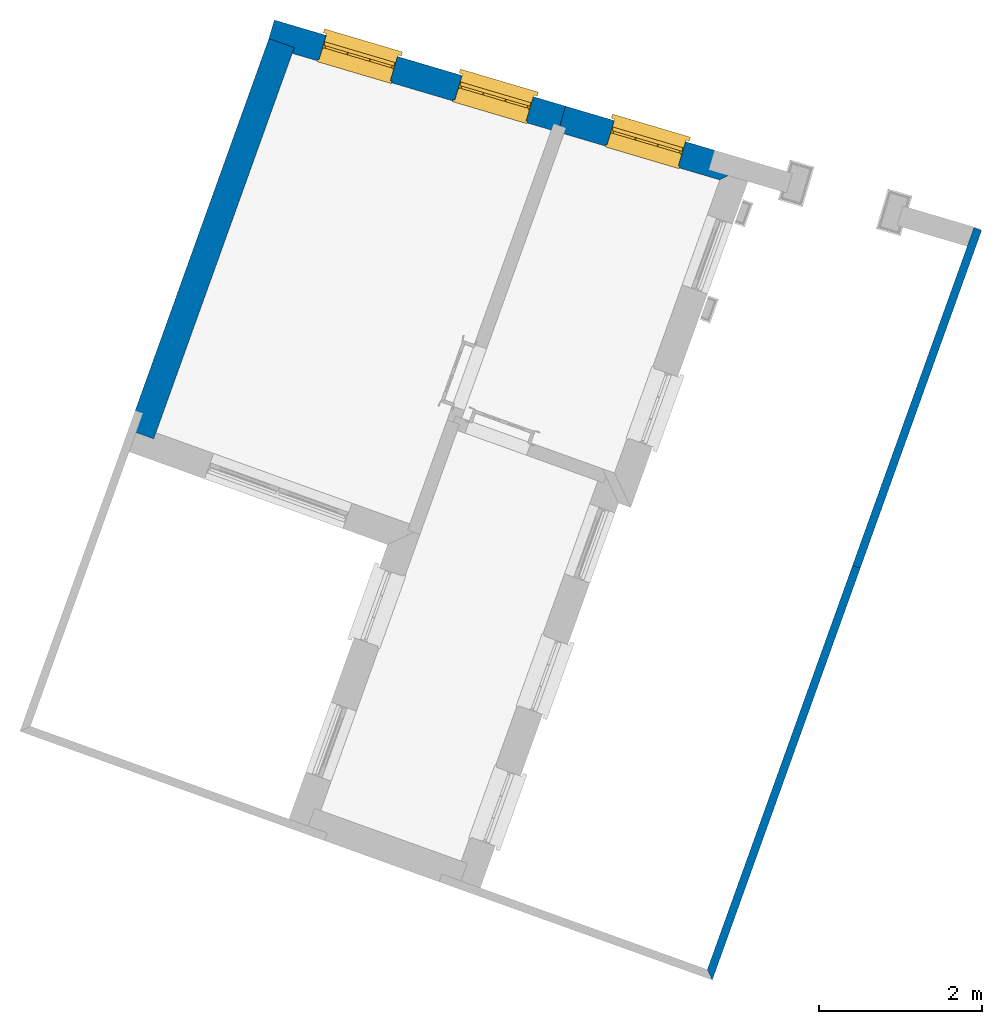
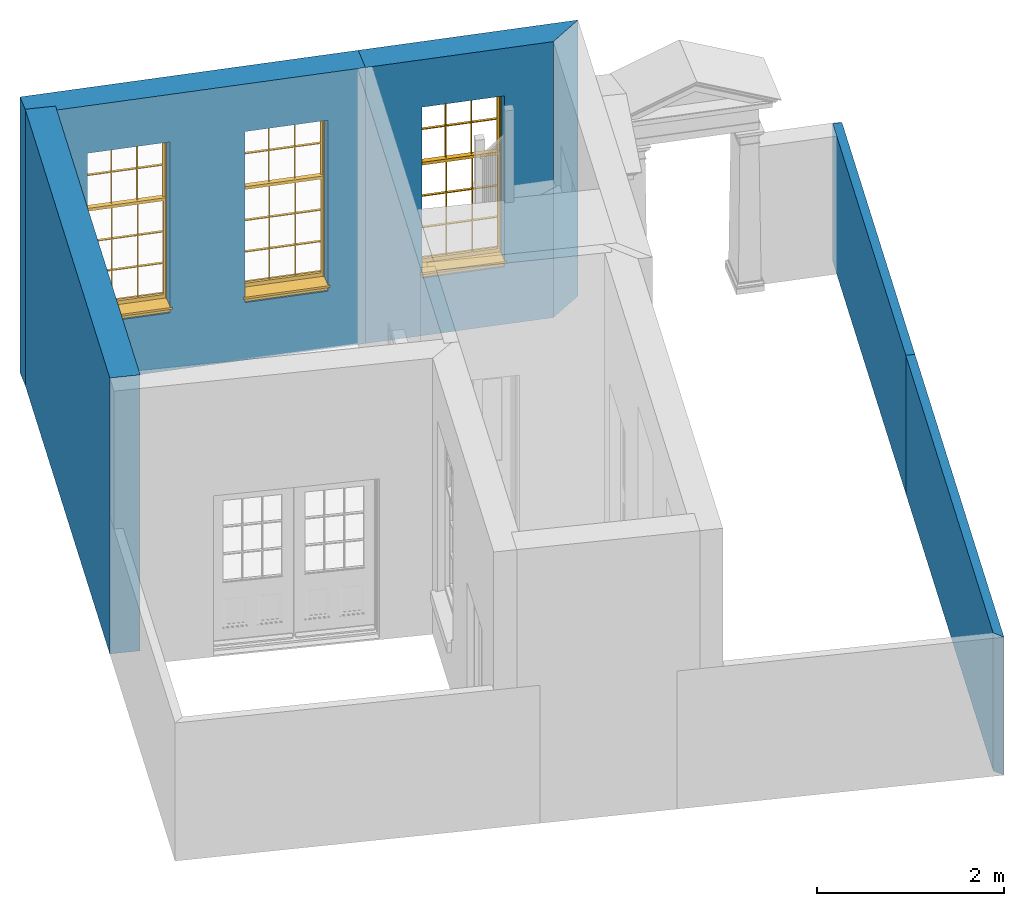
# One storey, part 6 of 7: 5 walls, 3 windows, 3 openings.
"""IFC4 building model written with IfcOpenShell, lengths in metres."""

from ifc_helpers import new_model, si_unit, frame, origin, origin_with_axes, place, context, subcontext, project, spatial, polyline, outline, extrude, faceted_brep, source, transform, mapped, material, layer, layer_set, layer_usage, type_object, type_shapes, element, fill, save


model = new_model("IFC4")

# Units and contexts
model_context = context("Model", 3, world=origin_with_axes())
body_context = subcontext(model_context, "Body", "Model", "MODEL_VIEW")
ifc_project = project(units=[si_unit("PLANEANGLEUNIT", "RADIAN"), si_unit("MASSUNIT", "GRAM", prefix="KILO"), si_unit("FORCEUNIT", "NEWTON", prefix="KILO"), si_unit("LENGTHUNIT", "METRE"), si_unit("AREAUNIT", "SQUARE_METRE"), si_unit("VOLUMEUNIT", "CUBIC_METRE")], contexts=[model_context, model_context])

# Sites, building, storey
site_1_placement = place(None, origin_with_axes())
site_1 = spatial("IfcSite", under=ifc_project, at=site_1_placement, Name="Tamar")
site_2_placement = place(site_1_placement, origin_with_axes())
site_2 = spatial("IfcSite", under=site_1, at=site_2_placement, Name="Site plot-23", CompositionType="ELEMENT")
building_placement = place(None, origin_with_axes())
building = spatial("IfcBuilding", under=site_2, at=building_placement, Name="Building plot-23", CompositionType="ELEMENT")
storey_placement = place(None, frame((0.0, 0.0, 26.0), z_axis=(0.0, 0.0, 1.0), x_axis=(1.0, 0.0, 0.0)))
storey = spatial("IfcBuildingStorey", under=building, at=storey_placement, Name="plot-23 0", CompositionType="ELEMENT", Elevation=26.0)

# Wall, opening, window
ifc_material_1 = material(Name="Masonry")
ifc_layer_1 = layer(ifc_material_1, 0.33, ventilated=False)
ifc_layer_set_1 = layer_set([ifc_layer_1], Name="exterior_0.08_0.25")
ifc_layer_usage_1 = layer_usage(ifc_layer_set_1, "AXIS2", "POSITIVE", -0.25)
wall_type_1 = type_object("IfcWallType", Name="exterior_0.08_0.25", PredefinedType="SOLIDWALL", material=ifc_layer_set_1)
wall_1_placement = place(storey_placement, frame((267.671352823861, 281.516276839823, 0.0), z_axis=(0.0, 0.0, 1.0), x_axis=(-0.95889955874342, 0.283745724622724, 0.0)))
wall_1 = element("IfcWall", 1, at=wall_1_placement, inside=storey, type_object=wall_type_1, material=ifc_layer_usage_1, Name="exterior", context=body_context, shape_type="SweptSolid", body=[
    extrude(outline(polyline([(0.0847177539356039, 0.0800000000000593), (-0.264742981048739, -0.250000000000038), (2.14948972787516, -0.250000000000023), (2.14948972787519, 0.0800000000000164), (0.0847177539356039, 0.0800000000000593)])), origin_with_axes(), (0.0, 0.0, 1.0), 3.6),
])
opening_1_placement = place(wall_1_placement, frame((0.619744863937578, 0.0, 0.75)))
opening_1 = element("IfcOpeningElement", 2, at=opening_1_placement, cuts=wall_1, Name="My Opening", ObjectType="Opening", context=body_context, shape_type="SweptSolid", body=[
    extrude(outline(polyline([(0.0, -0.270000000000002), (0.910000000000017, -0.269999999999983), (0.910000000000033, 1.10000000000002), (1.59872115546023e-14, 1.1), (0.0, -0.270000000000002)])), origin_with_axes(), (0.0, 0.0, 1.0), 2.23),
])
window_type = type_object("IfcWindowType", Name="sash_big_taller", PartitioningType="DOUBLE_PANEL_HORIZONTAL", PredefinedType="NOTDEFINED")
shared_shape = source(origin(), body_context, "Body", "Brep", [
    faceted_brep([(0.033125, 0.145, 1.385209), (0.01, 0.145, 1.385209), (0.033125, 0.145, 1.786042), (0.876875, 0.145, 1.385209), (0.876875, 0.145, 1.786042), (0.9, 0.145, 1.385209), (0.876875, 0.145, 1.796042), (0.876875, 0.145, 2.196875), (0.9, 0.145, 2.22), (0.033125, 0.145, 2.196875), (0.033125, 0.145, 1.796042), (0.01, 0.145, 2.22), (0.876875, 0.115, 1.786042), (0.876875, 0.115, 1.385209), (0.9, 0.115, 1.347084), (0.033125, 0.115, 2.196875), (0.01, 0.115, 2.22), (0.033125, 0.115, 1.796042), (0.01, 0.115, 1.347084), (0.033125, 0.115, 1.385209), (0.033125, 0.115, 1.786042), (0.876875, 0.115, 2.196875), (0.876875, 0.115, 1.796042), (0.9, 0.115, 2.22), (0.033125, 0.145, 1.347084), (0.01, 0.145, 1.347084), (0.033125, 0.145, 0.94625), (0.876875, 0.145, 1.347084), (0.876875, 0.145, 0.94625), (0.9, 0.145, 1.347084), (0.876875, 0.145, 0.52625), (0.876875, 0.145, 0.125417), (0.9, 0.145, 0.077167), (0.033125, 0.145, 0.125417), (0.033125, 0.145, 0.52625), (0.01, 0.145, 0.077167), (-0.0425, 0.0, 0.01), (-0.0425, -0.05, 0.001667), (0.0, 0.0, 0.01), (0.9525, 0.0, 0.01), (0.91, 0.0, 0.01), (0.9525, -0.05, 0.001667), (-0.02, 0.33, 0.077167), (0.0, 0.33, 0.077167), (-0.02, 0.36, 0.077167), (0.0, 0.19, 0.077167), (0.01, 0.19, 0.077167), (0.91, 0.19, 0.077167), (0.91, 0.33, 0.077167), (0.9, 0.19, 0.077167), (0.93, 0.33, 0.077167), (0.93, 0.36, 0.077167), (0.01, 0.175, 1.385209), (0.9, 0.175, 1.385209), (0.876875, 0.175, 0.125417), (0.876875, 0.175, 0.52625), (0.9, 0.175, 0.077167), (0.876875, 0.175, 0.94625), (0.876875, 0.175, 1.347084), (0.033125, 0.175, 0.125417), (0.01, 0.175, 0.077167), (0.033125, 0.175, 0.52625), (0.033125, 0.175, 1.347084), (0.033125, 0.175, 0.94625), (-0.02, 0.33, 0.052167), (-0.02, 0.36, 0.052167), (0.93, 0.36, 0.052167), (0.93, 0.33, 0.052167), (0.91, 0.33, 0.052167), (0.0, 0.33, 0.052167), (0.91, 0.1, 0.026667), (0.0, 0.1, 0.026667), (-0.0425, -0.05, -0.123333), (0.9525, -0.05, -0.123333), (-0.0425, 0.0, -0.123333), (0.9525, 0.0, -0.123333), (0.01, 0.19, 2.22), (0.9, 0.19, 2.22), (0.0, 0.19, 2.23), (0.91, 0.19, 2.23), (0.01, 0.1, 0.077167), (0.9, 0.1, 0.077167), (0.592292, 0.145, 0.125417), (0.592292, 0.175, 0.125417), (0.317708, 0.175, 0.125417), (0.317708, 0.145, 0.125417), (0.592292, 0.145, 0.53625), (0.317708, 0.145, 0.53625), (0.317708, 0.145, 0.52625), (0.592292, 0.145, 0.52625), (0.592292, 0.175, 0.53625), (0.317708, 0.175, 0.53625), (0.592292, 0.115, 1.796042), (0.592292, 0.145, 1.796042), (0.317708, 0.145, 1.796042), (0.317708, 0.115, 1.796042), (0.317708, 0.115, 1.786042), (0.592292, 0.115, 1.786042), (0.317708, 0.145, 1.786042), (0.592292, 0.145, 1.786042), (0.602292, 0.115, 1.786042), (0.592292, 0.115, 1.385209), (0.602292, 0.115, 1.385209), (0.602292, 0.145, 1.385209), (0.592292, 0.145, 1.385209), (0.602292, 0.145, 1.786042), (0.876875, 0.145, 0.53625), (0.876875, 0.175, 0.53625), (0.602292, 0.175, 0.53625), (0.602292, 0.145, 0.53625), (0.317708, 0.175, 0.52625), (0.307708, 0.175, 0.125417), (0.307708, 0.175, 0.52625), (0.602292, 0.175, 0.52625), (0.602292, 0.175, 0.125417), (0.592292, 0.175, 0.52625), (0.307708, 0.175, 0.53625), (0.033125, 0.175, 0.53625), (0.317708, 0.175, 1.347084), (0.317708, 0.175, 0.94625), (0.307708, 0.175, 0.94625), (0.307708, 0.175, 1.347084), (0.602292, 0.175, 1.347084), (0.602292, 0.175, 0.94625), (0.592292, 0.175, 0.94625), (0.592292, 0.175, 1.347084), (0.307708, 0.145, 0.52625), (0.307708, 0.145, 0.125417), (0.307708, 0.145, 0.53625), (0.033125, 0.145, 0.53625), (0.307708, 0.145, 1.347084), (0.307708, 0.145, 0.94625), (0.592292, 0.145, 1.347084), (0.592292, 0.145, 0.94625), (0.317708, 0.145, 0.94625), (0.317708, 0.145, 1.347084), (0.602292, 0.145, 0.94625), (0.602292, 0.145, 1.347084), (0.602292, 0.145, 0.52625), (0.602292, 0.145, 0.125417), (0.307708, 0.115, 1.796042), (0.307708, 0.115, 1.786042), (0.307708, 0.115, 1.385209), (0.317708, 0.115, 1.385209), (0.317708, 0.115, 2.196875), (0.307708, 0.115, 2.196875), (0.602292, 0.115, 2.196875), (0.592292, 0.115, 2.196875), (0.602292, 0.115, 1.796042), (0.602292, 0.145, 1.796042), (0.307708, 0.145, 1.796042), (0.307708, 0.145, 2.196875), (0.317708, 0.145, 2.196875), (0.592292, 0.145, 2.196875), (0.602292, 0.145, 2.196875), (0.307708, 0.145, 1.786042), (0.317708, 0.145, 1.385209), (0.307708, 0.145, 1.385209), (0.876875, 0.175, 0.93625), (0.033125, 0.175, 0.93625), (0.033125, 0.145, 0.93625), (0.876875, 0.145, 0.93625), (0.91, 0.1, 2.23), (0.9, 0.1, 2.22), (0.01, 0.1, 2.22), (0.0, 0.1, 2.23), (0.91, 0.0, 0.0), (0.0, 0.0, 0.0), (0.91, 0.33, 0.0), (0.0, 0.33, 0.0), (0.317708, 0.145, 0.93625), (0.592292, 0.145, 0.93625), (0.317708, 0.175, 0.93625), (0.307708, 0.175, 0.93625), (0.602292, 0.175, 0.93625), (0.592292, 0.175, 0.93625), (0.307708, 0.145, 0.93625), (0.602292, 0.145, 0.93625)], [[[0, 1, 2]], [[3, 4, 5]], [[6, 7, 8]], [[9, 10, 11]], [[12, 13, 14]], [[15, 16, 17]], [[18, 19, 20]], [[21, 22, 23]], [[24, 25, 26]], [[27, 28, 29]], [[30, 31, 32]], [[33, 34, 35]], [[14, 27, 29]], [[25, 24, 18]], [[36, 37, 38]], [[39, 40, 41]], [[42, 43, 44]], [[45, 46, 43]], [[47, 48, 49]], [[50, 51, 48]], [[1, 0, 52]], [[5, 53, 3]], [[54, 55, 56]], [[57, 58, 53]], [[59, 60, 61]], [[62, 63, 52]], [[48, 43, 46, 49]], [[51, 44, 43, 48]], [[64, 42, 44, 65]], [[65, 44, 51, 66]], [[66, 51, 50, 67]], [[65, 66, 68, 69]], [[60, 56, 49, 46]], [[70, 71, 38, 40]], [[37, 41, 40, 38]], [[37, 72, 73, 41]], [[74, 75, 73, 72]], [[8, 11, 76, 77]], [[76, 78, 79, 77]], [[32, 35, 80, 81]], [[81, 80, 71, 70]], [[82, 83, 84, 85]], [[86, 87, 88, 89]], [[86, 90, 91, 87]], [[92, 93, 94, 95]], [[92, 95, 96, 97]], [[96, 98, 99, 97]], [[100, 97, 101, 102]], [[103, 104, 99, 105]], [[97, 99, 104, 101]], [[102, 103, 105, 100]], [[106, 107, 108, 109]], [[110, 84, 111, 112]], [[113, 114, 83, 115]], [[116, 112, 61, 117]], [[90, 115, 110, 91]], [[118, 119, 120, 121]], [[122, 123, 124, 125]], [[113, 108, 107, 55]], [[126, 112, 111, 127]], [[34, 61, 112, 126]], [[89, 115, 83, 82]], [[88, 110, 115, 89]], [[85, 84, 110, 88]], [[128, 116, 117, 129]], [[130, 121, 120, 131]], [[132, 125, 124, 133]], [[134, 119, 118, 135]], [[136, 123, 122, 137]], [[138, 113, 55, 30]], [[139, 114, 113, 138]], [[138, 30, 106, 109]], [[88, 126, 127, 85]], [[138, 89, 82, 139]], [[137, 132, 133, 136]], [[128, 129, 34, 126]], [[135, 130, 131, 134]], [[140, 17, 20, 141]], [[96, 141, 142, 143]], [[144, 145, 140, 95]], [[146, 147, 92, 148]], [[100, 12, 22, 148]], [[149, 6, 4, 105]], [[94, 150, 151, 152]], [[149, 93, 153, 154]], [[99, 98, 94, 93]], [[155, 2, 10, 150]], [[156, 157, 155, 98]], [[141, 155, 157, 142]], [[20, 2, 155, 141]], [[143, 156, 98, 96]], [[140, 150, 10, 17]], [[145, 151, 150, 140]], [[147, 153, 93, 92]], [[95, 94, 152, 144]], [[22, 6, 149, 148]], [[148, 149, 154, 146]], [[100, 105, 4, 12]], [[109, 86, 89, 138]], [[108, 113, 115, 90]], [[91, 110, 112, 116]], [[87, 128, 126, 88]], [[97, 100, 148, 92]], [[141, 96, 95, 140]], [[98, 155, 150, 94]], [[105, 99, 93, 149]], [[143, 101, 104, 156]], [[135, 118, 125, 132]], [[144, 152, 153, 147]], [[127, 111, 59, 33]], [[15, 9, 151, 145]], [[146, 154, 7, 21]], [[31, 54, 114, 139]], [[36, 74, 72, 37]], [[39, 41, 73, 75]], [[18, 14, 101, 143]], [[23, 16, 144, 147]], [[83, 56, 60, 84]], [[52, 53, 125, 118]], [[53, 52, 156, 104]], [[11, 8, 153, 152]], [[14, 18, 135, 132]], [[2, 1, 11, 10]], [[8, 5, 4, 6]], [[57, 53, 56, 158]], [[60, 52, 63, 159]], [[26, 25, 35, 160]], [[32, 29, 28, 161]], [[14, 23, 22, 12]], [[18, 20, 17, 16]], [[19, 0, 2, 20]], [[17, 10, 9, 15]], [[12, 4, 3, 13]], [[21, 7, 6, 22]], [[27, 58, 57, 28]], [[30, 55, 54, 31]], [[33, 59, 61, 34]], [[26, 63, 62, 24]], [[5, 8, 77, 53]], [[76, 11, 1, 52]], [[46, 45, 78, 76]], [[49, 77, 79, 47]], [[70, 162, 163, 81]], [[71, 80, 164, 165]], [[19, 142, 157, 0]], [[102, 13, 3, 103]], [[121, 130, 24, 62]], [[29, 32, 81, 14]], [[80, 35, 25, 18]], [[60, 46, 76, 52]], [[77, 49, 56, 53]], [[23, 14, 81, 163]], [[16, 164, 80, 18]], [[35, 85, 127]], [[127, 33, 35]], [[139, 82, 32]], [[32, 31, 139]], [[32, 82, 85, 35]], [[102, 101, 14]], [[14, 13, 102]], [[18, 143, 142]], [[142, 19, 18]], [[146, 21, 23]], [[23, 147, 146]], [[16, 15, 145]], [[145, 144, 16]], [[11, 152, 151]], [[151, 9, 11]], [[154, 153, 8]], [[8, 7, 154]], [[23, 163, 164, 16]], [[162, 165, 164, 163]], [[52, 118, 121]], [[121, 62, 52]], [[125, 53, 122]], [[58, 122, 53]], [[27, 137, 122, 58]], [[56, 83, 114]], [[114, 54, 56]], [[111, 84, 60]], [[60, 59, 111]], [[137, 27, 14]], [[14, 132, 137]], [[130, 135, 18]], [[18, 24, 130]], [[157, 156, 52]], [[52, 0, 157]], [[103, 3, 53]], [[53, 104, 103]], [[79, 78, 165, 162]], [[78, 45, 71, 165]], [[162, 70, 47, 79]], [[166, 75, 74, 167]], [[68, 66, 67]], [[48, 68, 67, 50]], [[69, 64, 65]], [[42, 64, 69, 43]], [[69, 68, 168, 169]], [[70, 68, 48, 47]], [[166, 168, 68, 70]], [[43, 69, 71, 45]], [[69, 169, 167, 71]], [[168, 166, 167, 169]], [[38, 167, 74, 36]], [[71, 167, 38]], [[39, 75, 166, 40]], [[40, 166, 70]], [[133, 134, 170, 171]], [[133, 124, 119, 134]], [[28, 57, 123, 136]], [[172, 91, 116, 173]], [[174, 108, 90, 175]], [[120, 173, 159, 63]], [[124, 175, 172, 119]], [[174, 123, 57, 158]], [[176, 173, 116, 128]], [[160, 159, 173, 176]], [[171, 175, 90, 86]], [[170, 172, 175, 171]], [[87, 91, 172, 170]], [[131, 120, 63, 26]], [[177, 174, 158, 161]], [[109, 108, 174, 177]], [[177, 161, 28, 136]], [[170, 176, 128, 87]], [[177, 171, 86, 109]], [[131, 26, 160, 176]], [[136, 133, 171, 177]], [[123, 174, 175, 124]], [[119, 172, 173, 120]], [[134, 131, 176, 170]], [[129, 117, 159, 160]], [[161, 158, 107, 106]], [[35, 34, 129]], [[35, 129, 160]], [[32, 106, 30]], [[32, 161, 106]], [[56, 55, 107]], [[56, 107, 158]], [[60, 117, 61]], [[60, 159, 117]]]),
])
type_shapes(window_type, [shared_shape])
window_1_placement = place(storey_placement, frame((267.153691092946, 281.951029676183, 0.75), z_axis=(0.0, 0.0, 1.0), x_axis=(-0.872598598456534, 0.258208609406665, 0.0)))
window_1 = element("IfcWindow", 3, at=window_1_placement, inside=storey, type_object=window_type, Name="circulation street window", OverallHeight=2.23, OverallWidth=0.91, context=body_context, shape_type="MappedRepresentation", body=[
    mapped(shared_shape, transform((0.0, 0.0, 0.0), scale=1.0)),
])
fill(opening_1, window_1)

# Wall, openings, windows
wall_2_placement = place(storey_placement, frame((265.610208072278, 282.126185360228, 0.0), z_axis=(0.0, 0.0, 1.0), x_axis=(-0.958899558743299, 0.283745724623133, 0.0)))
wall_2 = element("IfcWall", 4, at=wall_2_placement, inside=storey, type_object=wall_type_1, material=ifc_layer_usage_1, Name="exterior", context=body_context, shape_type="SweptSolid", body=[
    extrude(outline(polyline([(-1.79007783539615e-14, 0.0800000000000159), (9.27189306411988e-14, -0.250000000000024), (3.71621589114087, -0.249999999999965), (3.71621589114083, 0.080000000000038), (-1.79007783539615e-14, 0.0800000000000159)])), origin_with_axes(), (0.0, 0.0, 1.0), 3.6),
])
opening_2_placement = place(wall_2_placement, frame((0.411553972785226, 0.0, 0.75)))
opening_2 = element("IfcOpeningElement", 5, at=opening_2_placement, cuts=wall_2, Name="My Opening", ObjectType="Opening", context=body_context, shape_type="SweptSolid", body=[
    extrude(outline(polyline([(0.0, -0.270000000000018), (0.910000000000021, -0.270000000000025), (0.910000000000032, 1.10000000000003), (1.01030295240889e-14, 1.10000000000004), (0.0, -0.270000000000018)])), origin_with_axes(), (0.0, 0.0, 1.0), 2.23),
])
opening_3_placement = place(wall_2_placement, frame((2.14466191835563, 0.0, 0.75)))
opening_3 = element("IfcOpeningElement", 6, at=opening_3_placement, cuts=wall_2, Name="My Opening", ObjectType="Opening", context=body_context, shape_type="SweptSolid", body=[
    extrude(outline(polyline([(0.0, -0.270000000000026), (0.910000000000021, -0.270000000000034), (0.910000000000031, 1.10000000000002), (1.02140518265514e-14, 1.10000000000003), (0.0, -0.270000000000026)])), origin_with_axes(), (0.0, 0.0, 1.0), 2.23),
])
window_2_placement = place(storey_placement, frame((265.292180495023, 282.501864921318, 0.75), z_axis=(0.0, 0.0, 1.0), x_axis=(-0.87259859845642, 0.258208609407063, 0.0)))
window_2 = element("IfcWindow", 7, at=window_2_placement, inside=storey, type_object=window_type, Name="living street window", OverallHeight=2.23, OverallWidth=0.91, context=body_context, shape_type="MappedRepresentation", body=[
    mapped(shared_shape, transform((0.0, 0.0, 0.0), scale=1.0)),
])
fill(opening_2, window_2)
window_3_placement = place(storey_placement, frame((263.630304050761, 282.993626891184, 0.75), z_axis=(0.0, 0.0, 1.0), x_axis=(-0.87259859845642, 0.258208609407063, 0.0)))
window_3 = element("IfcWindow", 8, at=window_3_placement, inside=storey, type_object=window_type, Name="living street window", OverallHeight=2.23, OverallWidth=0.91, context=body_context, shape_type="MappedRepresentation", body=[
    mapped(shared_shape, transform((0.0, 0.0, 0.0), scale=1.0)),
])
fill(opening_3, window_3)

# Walls
ifc_material_2 = material(Name="Masonry")
ifc_layer_2 = layer(ifc_material_2, 0.33, ventilated=False)
ifc_layer_set_2 = layer_set([ifc_layer_2], Name="party_0.08_0.25")
ifc_layer_usage_2 = layer_usage(ifc_layer_set_2, "AXIS2", "POSITIVE", -0.25)
wall_type_2 = type_object("IfcWallType", Name="party_0.08_0.25", PredefinedType="SOLIDWALL", material=ifc_layer_set_2)
wall_3_placement = place(storey_placement, frame((262.286455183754, 283.10970929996, 0.0), z_axis=(0.0, 0.0, 1.0), x_axis=(-0.338164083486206, -0.941087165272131, 0.0)))
element("IfcWall", 9, at=wall_3_placement, inside=storey, type_object=wall_type_2, material=ifc_layer_usage_2, Name="party", context=body_context, shape_type="SweptSolid", body=[
    extrude(outline(polyline([(-9.25175132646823e-15, 0.0799999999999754), (1.28938951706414e-14, -0.250000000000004), (5.08654930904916, -0.250000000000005), (5.08654930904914, 0.0799999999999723), (-9.25175132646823e-15, 0.0799999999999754)])), origin_with_axes(), (0.0, 0.0, 1.0), 3.6),
])
ifc_material_3 = material(Name="Masonry")
ifc_layer_3 = layer(ifc_material_3, 0.1, ventilated=False)
ifc_layer_set_3 = layer_set([ifc_layer_3], Name="fence_-0.15_0.25")
ifc_layer_usage_3 = layer_usage(ifc_layer_set_3, "AXIS2", "POSITIVE", -0.25)
wall_type_3 = type_object("IfcWallType", Name="fence_-0.15_0.25", PredefinedType="SOLIDWALL", material=ifc_layer_set_3)
wall_4_placement = place(storey_placement, frame((267.324737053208, 271.995171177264, 0.0), z_axis=(0.0, 0.0, 1.0), x_axis=(0.338164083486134, 0.941087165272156, 0.0)))
element("IfcWall", 10, at=wall_4_placement, inside=storey, type_object=wall_type_3, material=ifc_layer_usage_3, Name="fence", context=body_context, shape_type="SweptSolid", body=[
    extrude(outline(polyline([(-0.149999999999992, -0.150000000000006), (-0.249999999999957, -0.249999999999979), (5.10289233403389, -0.250000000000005), (5.1028923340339, -0.149999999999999), (-0.149999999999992, -0.150000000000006)])), origin_with_axes(), (0.0, 0.0, 1.0), 1.8),
])
wall_5_placement = place(storey_placement, frame((269.050351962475, 276.797437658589, 0.0), z_axis=(0.0, 0.0, 1.0), x_axis=(0.338164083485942, 0.941087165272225, 0.0)))
element("IfcWall", 11, at=wall_5_placement, inside=storey, type_object=wall_type_3, material=ifc_layer_usage_3, Name="fence", context=body_context, shape_type="SweptSolid", body=[
    extrude(outline(polyline([(-2.3505338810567e-14, -0.149999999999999), (-5.70501553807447e-14, -0.250000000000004), (4.39039512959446, -0.249999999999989), (4.39039512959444, -0.150000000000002), (-2.3505338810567e-14, -0.149999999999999)])), origin_with_axes(), (0.0, 0.0, 1.0), 1.8),
])

save(model, "model.ifc")
